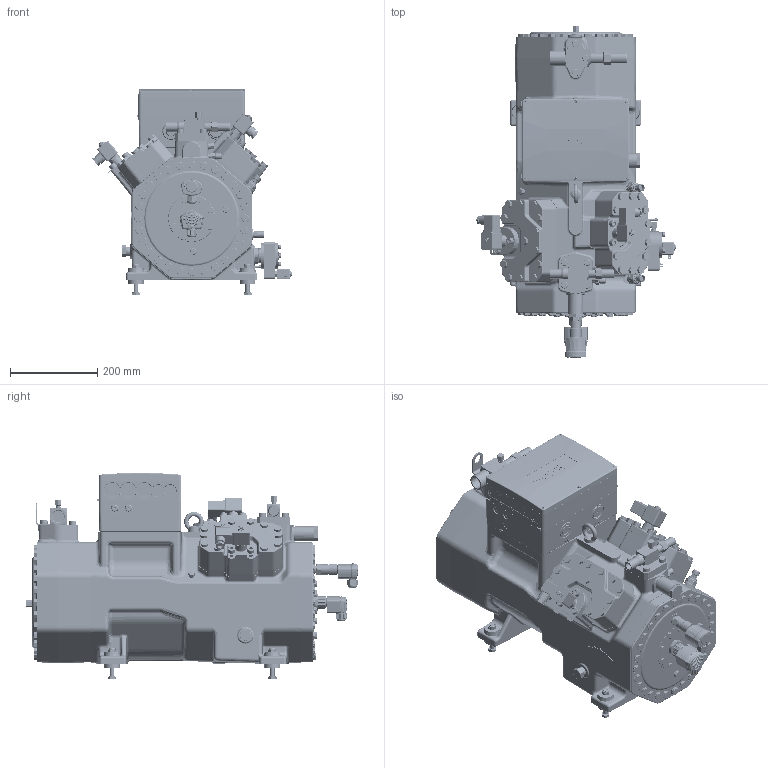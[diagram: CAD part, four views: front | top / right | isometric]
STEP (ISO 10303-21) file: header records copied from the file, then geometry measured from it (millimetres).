
FILE_DESCRIPTION(/* description */ (''),/* implementation_level */ '2;1');
FILE_NAME(/* name */ '4JTE-4HTE-4GTE-4FTE-4DTE-4CTE_Arrangement 1.stp',/* time_stamp */ '2024-10-28T08:16:00+01:00',/* author */ (''),/* organization */ (''),/* preprocessor_version */ 'ST-DEVELOPER v19.4',/* originating_system */ 'SIEMENS PLM Software NX2212.8901',/* authorisation */ '');
FILE_SCHEMA (('AUTOMOTIVE_DESIGN { 1 0 10303 214 3 1 1 1 }'));
Products named in the file (32): PLUG-1-4-18NPTF; ELECTRICAL-TERMINAL-BOX-IP65; DAMPER-ELEMENT-CKHE4-CME4; TERMINAL-BOX-CE4-CM-RC-02; BEARING-COVER-CKH4; BLIND-FLANGE-HP-CO2; CRANKCASE-HEATER-200-260V-120W; CKHE4-BODY; HOUSING-COVER-CKH4-FLAT-ROUND; SEALING-SCREW-3-8-24-UNF; SEALING-SCREW-1-2-20-UNF; OIL-PRESS-CUT-OUT-DELTAP-2; BEARING-COVER-CKH5; OIL-LEVEL-MONITORING-OLM-IQ-2; PRESSURE-TRANSDUCER-5PP6-39-ND-01; PT1000; PLUG-1-8-27-NPTF-01; SOLENOID-VALVE-CAPACTIY-REGULA; SOLENOID-VALVE-CAPACTIY-REGULA-01; SHUT-OFF-VALVE-PS100-DN25; BEARING-COVER-OLCK1; BEARING-COVER-SIGHT-GLASS; SHUT-OFF-VALVE-DN16; PROTECTIVE-CAP-F-PRESS-SAF; VALVE-COMPLETE-D28-LA66; BLIND-FLANGE-OVAL-01; HOUSING-COVER-CKH4-DEEP-ROUN; 4JTE-HTE-GTE-FTE-DTE-CTE-STD; 4JTEU-4HTEU-4GTEU20-4FTEU20; 4JTE-HTE-GTE-FTE-DTE-CTE-OPT; 4GTEU30-4FTEU30-4DTEU-4CTEU; 4JTE-4HTE-4GTE-4FTE-4DTE-4CTE
Assembly tree (34 placements, depth 3):
  4JTE-4HTE-4GTE-4FTE-4DTE-4CTE
    4GTEU30-4FTEU30-4DTEU-4CTEU
      HOUSING-COVER-CKH4-DEEP-ROUN
      BLIND-FLANGE-OVAL-01
    4JTE-HTE-GTE-FTE-DTE-CTE-OPT
      VALVE-COMPLETE-D28-LA66
      PROTECTIVE-CAP-F-PRESS-SAF
      SHUT-OFF-VALVE-DN16
      BEARING-COVER-SIGHT-GLASS
      BEARING-COVER-OLCK1
      SHUT-OFF-VALVE-PS100-DN25
      SOLENOID-VALVE-CAPACTIY-REGULA-01
      SOLENOID-VALVE-CAPACTIY-REGULA
      PLUG-1-8-27-NPTF-01
      PT1000
      PRESSURE-TRANSDUCER-5PP6-39-ND-01  x2
      OIL-LEVEL-MONITORING-OLM-IQ-2
      BEARING-COVER-CKH5
      OIL-PRESS-CUT-OUT-DELTAP-2
      SEALING-SCREW-1-2-20-UNF
      SEALING-SCREW-3-8-24-UNF
    4JTEU-4HTEU-4GTEU20-4FTEU20
      HOUSING-COVER-CKH4-FLAT-ROUND
      BLIND-FLANGE-OVAL-01
    4JTE-HTE-GTE-FTE-DTE-CTE-STD
      CKHE4-BODY
      CRANKCASE-HEATER-200-260V-120W
      BLIND-FLANGE-HP-CO2
      BEARING-COVER-CKH4
      TERMINAL-BOX-CE4-CM-RC-02
      DAMPER-ELEMENT-CKHE4-CME4
      ELECTRICAL-TERMINAL-BOX-IP65
      PLUG-1-8-27-NPTF-01
      PLUG-1-4-18NPTF
Bounding box: 457.2 x 760.2 x 472.4 mm (x, y, z)
Volume: 65671436.2 mm3; surface area: 2708915 mm2
Topology: 38 solids, 89 shells, 13995 faces, 34656 edges, 21844 vertices
Faces by surface type: plane 6254, cylinder 2516, cone 1955, bspline 1201, extrusion 1001, torus 814, sphere 248, revolution 6
Full cylindrical faces by diameter (mm): 1.5 x4, 1.52 x1, 1.8 x3, 2 x1, 2.5 x1, 3 x5, 3.2 x1, 3.5 x4, 4 x7, 4.5 x1, 4.9 x1, 5 x2, 5.2 x4, 5.795 x2, 6 x10, 6.3 x2, 6.5 x6, 7 x3, 7.6 x1, 8 x3, 8.5 x16, 8.782 x2, 8.985 x4, 9 x8, 9.1 x1, 9.342 x1, 9.5 x1, 9.65 x2, 9.8 x2, 9.921 x1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
Entity records: 465014 total; most frequent: CARTESIAN_POINT 142886, ORIENTED_EDGE 63856, DIRECTION 56610, EDGE_CURVE 31928, AXIS2_PLACEMENT_3D 21680, VERTEX_POINT 20852, EDGE_LOOP 16294, ADVANCED_FACE 13728
